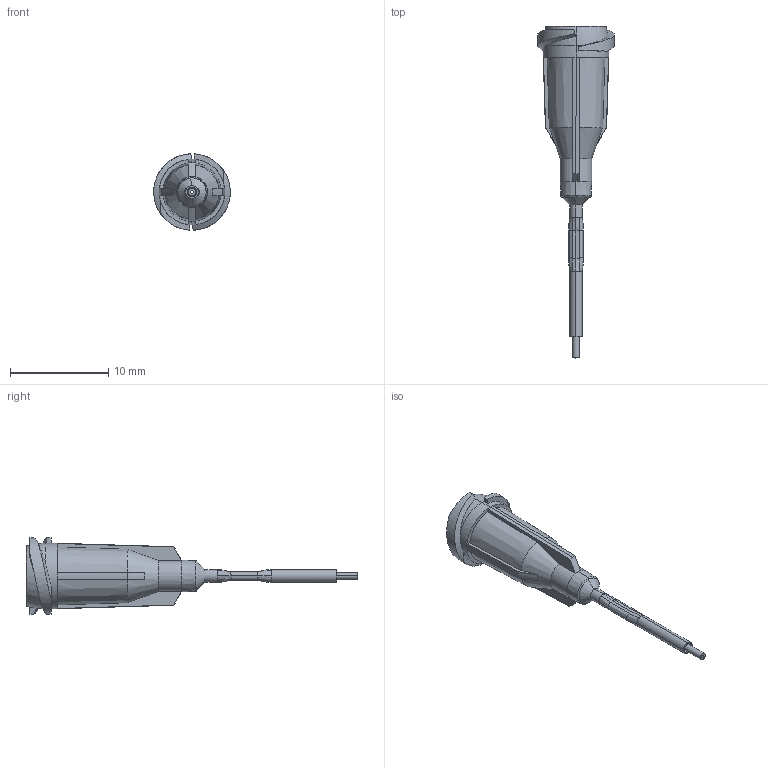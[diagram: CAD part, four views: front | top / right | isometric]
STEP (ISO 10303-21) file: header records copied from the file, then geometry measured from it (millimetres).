
FILE_DESCRIPTION (( 'STEP AP214' ), '1' );
FILE_NAME ('NORDSONEFD-7018386 TIP 25GA TLCS 006 X 1-2 PK.STEP', '2019-01-10T07:28:22', ( '' ), ( '' ), 'SwSTEP 2.0', 'SolidWorks 2018', '' );
FILE_SCHEMA (( 'AUTOMOTIVE_DESIGN' ));
Length unit declared in the file: inch
Products named in the file (1): NORDSONEFD-7018386 TIP 25GA TLCS 006 X 1-2 PK
Bounding box: 7.76 x 33.73 x 7.77 mm (x, y, z)
Volume: 272.9 mm3; surface area: 712.8 mm2
Topology: 1 solids, 1 shells, 163 faces, 414 edges, 256 vertices
Faces by surface type: bspline 60, plane 35, cone 25, cylinder 24, torus 19
Entity records: 15128 total; most frequent: CARTESIAN_POINT 10989, ORIENTED_EDGE 828, DIRECTION 549, EDGE_CURVE 414, VERTEX_POINT 256, AXIS2_PLACEMENT_3D 226, B_SPLINE_CURVE_WITH_KNOTS 185, EDGE_LOOP 172
